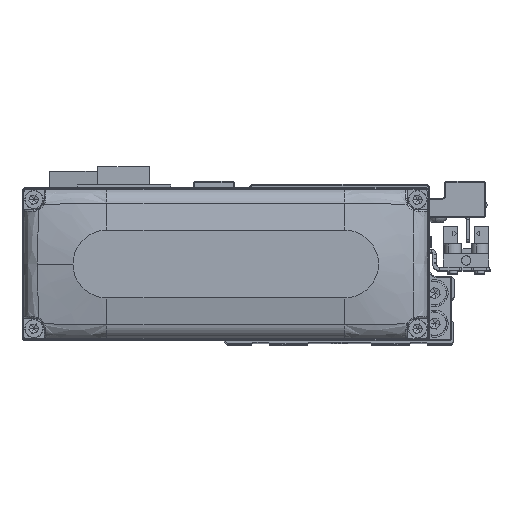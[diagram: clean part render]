
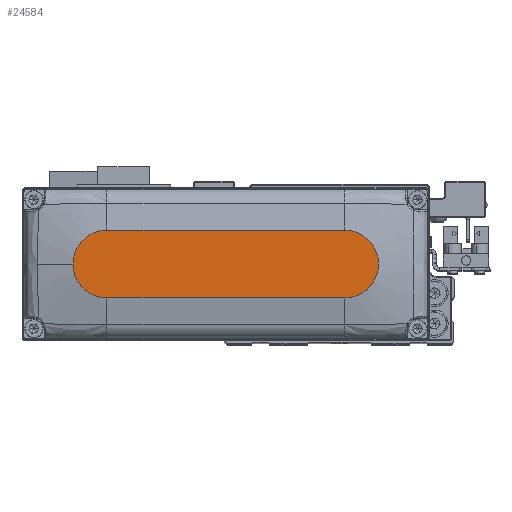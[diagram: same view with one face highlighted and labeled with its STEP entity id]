
A CAD part, top view. The second image highlights one B-rep face of the part: STEP entity #24584.
In plain terms, the highlighted planar face has unit normal (0, 0, 1).
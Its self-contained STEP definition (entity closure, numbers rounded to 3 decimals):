
#207 = DIRECTION ( 'NONE',  ( 1., 0., 0. ) ) ;
#835 = VERTEX_POINT ( 'NONE', #26079 ) ;
#1287 = ORIENTED_EDGE ( 'NONE', *, *, #2936, .T. ) ;
#2037 = CIRCLE ( 'NONE', #25038, 10. ) ;
#2329 = PLANE ( 'NONE',  #33461 ) ;
#2341 = EDGE_CURVE ( 'NONE', #25938, #25661, #18788, .T. ) ;
#2936 = EDGE_CURVE ( 'NONE', #5250, #835, #2037, .T. ) ;
#3468 = VECTOR ( 'NONE', #30614, 1000. ) ;
#4105 = ORIENTED_EDGE ( 'NONE', *, *, #23647, .T. ) ;
#4368 = CARTESIAN_POINT ( 'NONE',  ( -35., -10., 28. ) ) ;
#5250 = VERTEX_POINT ( 'NONE', #15726 ) ;
#5322 = DIRECTION ( 'NONE',  ( 0., 0., 1. ) ) ;
#7444 = LINE ( 'NONE', #19019, #3468 ) ;
#7639 = DIRECTION ( 'NONE',  ( 1., 0., 0. ) ) ;
#8387 = EDGE_CURVE ( 'NONE', #34822, #25938, #7444, .T. ) ;
#10858 = EDGE_CURVE ( 'NONE', #835, #34822, #34858, .T. ) ;
#13004 = ORIENTED_EDGE ( 'NONE', *, *, #10858, .T. ) ;
#13855 = CARTESIAN_POINT ( 'NONE',  ( 0., 0., 28. ) ) ;
#14082 = CARTESIAN_POINT ( 'NONE',  ( -35., 10., 28. ) ) ;
#14107 = ORIENTED_EDGE ( 'NONE', *, *, #8387, .T. ) ;
#14402 = ORIENTED_EDGE ( 'NONE', *, *, #2341, .T. ) ;
#14574 = CARTESIAN_POINT ( 'NONE',  ( 35., 0., 28. ) ) ;
#15726 = CARTESIAN_POINT ( 'NONE',  ( 35., -10., 28. ) ) ;
#15918 = DIRECTION ( 'NONE',  ( 1., 0., 0. ) ) ;
#16876 = DIRECTION ( 'NONE',  ( 1., 0., 0. ) ) ;
#18486 = AXIS2_PLACEMENT_3D ( 'NONE', #31335, #5322, #16876 ) ;
#18680 = AXIS2_PLACEMENT_3D ( 'NONE', #22059, #33658, #7639 ) ;
#18788 = CIRCLE ( 'NONE', #18680, 10. ) ;
#19019 = CARTESIAN_POINT ( 'NONE',  ( -35., 10., 28. ) ) ;
#20960 = CARTESIAN_POINT ( 'NONE',  ( -35., -10., 28. ) ) ;
#22059 = CARTESIAN_POINT ( 'NONE',  ( -35., 0., 28. ) ) ;
#23029 = EDGE_LOOP ( 'NONE', ( #14107, #14402, #4105, #1287, #13004 ) ) ;
#23647 = EDGE_CURVE ( 'NONE', #25661, #5250, #30372, .T. ) ;
#24584 = ADVANCED_FACE ( 'NONE', ( #28300 ), #2329, .T. ) ;
#25038 = AXIS2_PLACEMENT_3D ( 'NONE', #14574, #26165, #207 ) ;
#25441 = DIRECTION ( 'NONE',  ( 0., 0., 1. ) ) ;
#25661 = VERTEX_POINT ( 'NONE', #20960 ) ;
#25938 = VERTEX_POINT ( 'NONE', #14082 ) ;
#26079 = CARTESIAN_POINT ( 'NONE',  ( 45., 0., 28. ) ) ;
#26165 = DIRECTION ( 'NONE',  ( 0., 0., 1. ) ) ;
#28300 = FACE_OUTER_BOUND ( 'NONE', #23029, .T. ) ;
#30372 = LINE ( 'NONE', #4368, #32832 ) ;
#30614 = DIRECTION ( 'NONE',  ( -1., 0., 0. ) ) ;
#31335 = CARTESIAN_POINT ( 'NONE',  ( 35., 0., 28. ) ) ;
#32395 = CARTESIAN_POINT ( 'NONE',  ( 35., 10., 28. ) ) ;
#32832 = VECTOR ( 'NONE', #15918, 1000. ) ;
#33461 = AXIS2_PLACEMENT_3D ( 'NONE', #13855, #25441, #37044 ) ;
#33658 = DIRECTION ( 'NONE',  ( 0., 0., 1. ) ) ;
#34822 = VERTEX_POINT ( 'NONE', #32395 ) ;
#34858 = CIRCLE ( 'NONE', #18486, 10. ) ;
#37044 = DIRECTION ( 'NONE',  ( 1., 0., 0. ) ) ;
